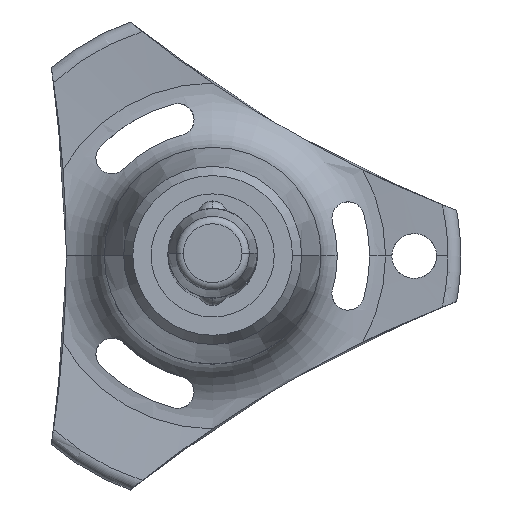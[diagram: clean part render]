
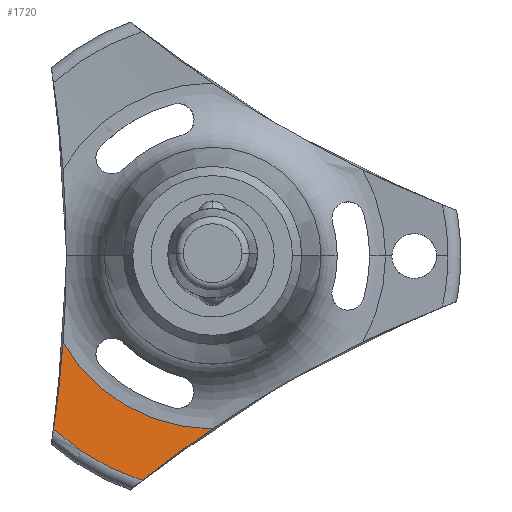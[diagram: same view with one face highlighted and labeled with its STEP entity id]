
A CAD part, top view. The second image highlights one B-rep face of the part: STEP entity #1720.
In plain terms, the highlighted conical face has half-angle 85.408 degrees and reference radius 15.736 mm.
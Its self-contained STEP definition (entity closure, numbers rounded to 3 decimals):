
#26 = AXIS2_PLACEMENT_3D ( 'NONE', #725, #1175, #303 ) ;
#107 = CARTESIAN_POINT ( 'NONE',  ( -0.019, -11.57, -101.787 ) ) ;
#121 = CONICAL_SURFACE ( 'NONE', #1701, 15.736, 1.491 ) ;
#158 = EDGE_CURVE ( 'NONE', #1110, #1456, #787, .T. ) ;
#235 = ORIENTED_EDGE ( 'NONE', *, *, #1618, .F. ) ;
#250 = FACE_OUTER_BOUND ( 'NONE', #400, .T. ) ;
#303 = DIRECTION ( 'NONE',  ( -1., 0., 0. ) ) ;
#339 = B_SPLINE_CURVE_WITH_KNOTS ( 'NONE', 3,
 ( #1276, #1035, #1894, #1707 ),
 .UNSPECIFIED., .F., .F.,
 ( 4, 4 ),
 ( 0.017, 0.023 ),
 .UNSPECIFIED. ) ;
#400 = EDGE_LOOP ( 'NONE', ( #235, #2394, #888, #1673 ) ) ;
#488 = CARTESIAN_POINT ( 'NONE',  ( 0., 0., -101.453 ) ) ;
#597 = VERTEX_POINT ( 'NONE', #1836 ) ;
#725 = CARTESIAN_POINT ( 'NONE',  ( 0., 0., -101.453 ) ) ;
#771 = DIRECTION ( 'NONE',  ( 0., 0., -1. ) ) ;
#787 = CIRCLE ( 'NONE', #26, 15.736 ) ;
#864 = CARTESIAN_POINT ( 'NONE',  ( -10.011, -5.801, -101.787 ) ) ;
#888 = ORIENTED_EDGE ( 'NONE', *, *, #1409, .F. ) ;
#947 = CARTESIAN_POINT ( 'NONE',  ( -4.715, -15.013, -101.453 ) ) ;
#1035 = CARTESIAN_POINT ( 'NONE',  ( -1.625, -12.66, -101.699 ) ) ;
#1110 = VERTEX_POINT ( 'NONE', #947 ) ;
#1164 = CIRCLE ( 'NONE', #2464, 11.57 ) ;
#1175 = DIRECTION ( 'NONE',  ( 0., 0., -1. ) ) ;
#1245 = B_SPLINE_CURVE_WITH_KNOTS ( 'NONE', 3,
 ( #1330, #2603, #1761, #864 ),
 .UNSPECIFIED., .F., .F.,
 ( 4, 4 ),
 ( 0., 0.006 ),
 .UNSPECIFIED. ) ;
#1276 = CARTESIAN_POINT ( 'NONE',  ( -0.019, -11.57, -101.787 ) ) ;
#1306 = CARTESIAN_POINT ( 'NONE',  ( -10.644, -11.59, -101.453 ) ) ;
#1330 = CARTESIAN_POINT ( 'NONE',  ( -10.644, -11.59, -101.453 ) ) ;
#1363 = DIRECTION ( 'NONE',  ( 1., 0., 0. ) ) ;
#1409 = EDGE_CURVE ( 'NONE', #1456, #597, #1245, .T. ) ;
#1456 = VERTEX_POINT ( 'NONE', #1306 ) ;
#1618 = EDGE_CURVE ( 'NONE', #2435, #1110, #339, .T. ) ;
#1673 = ORIENTED_EDGE ( 'NONE', *, *, #158, .F. ) ;
#1701 = AXIS2_PLACEMENT_3D ( 'NONE', #488, #2619, #1363 ) ;
#1707 = CARTESIAN_POINT ( 'NONE',  ( -4.715, -15.013, -101.453 ) ) ;
#1720 = ADVANCED_FACE ( 'NONE', ( #250 ), #121, .F. ) ;
#1761 = CARTESIAN_POINT ( 'NONE',  ( -10.152, -7.74, -101.699 ) ) ;
#1836 = CARTESIAN_POINT ( 'NONE',  ( -10.011, -5.801, -101.787 ) ) ;
#1894 = CARTESIAN_POINT ( 'NONE',  ( -3.192, -13.809, -101.581 ) ) ;
#1931 = DIRECTION ( 'NONE',  ( -1., 0., 0. ) ) ;
#2031 = CARTESIAN_POINT ( 'NONE',  ( 0., 0., -101.787 ) ) ;
#2394 = ORIENTED_EDGE ( 'NONE', *, *, #2505, .T. ) ;
#2435 = VERTEX_POINT ( 'NONE', #107 ) ;
#2464 = AXIS2_PLACEMENT_3D ( 'NONE', #2031, #771, #1931 ) ;
#2505 = EDGE_CURVE ( 'NONE', #2435, #597, #1164, .T. ) ;
#2603 = CARTESIAN_POINT ( 'NONE',  ( -10.363, -9.669, -101.581 ) ) ;
#2619 = DIRECTION ( 'NONE',  ( 0., 0., 1. ) ) ;
